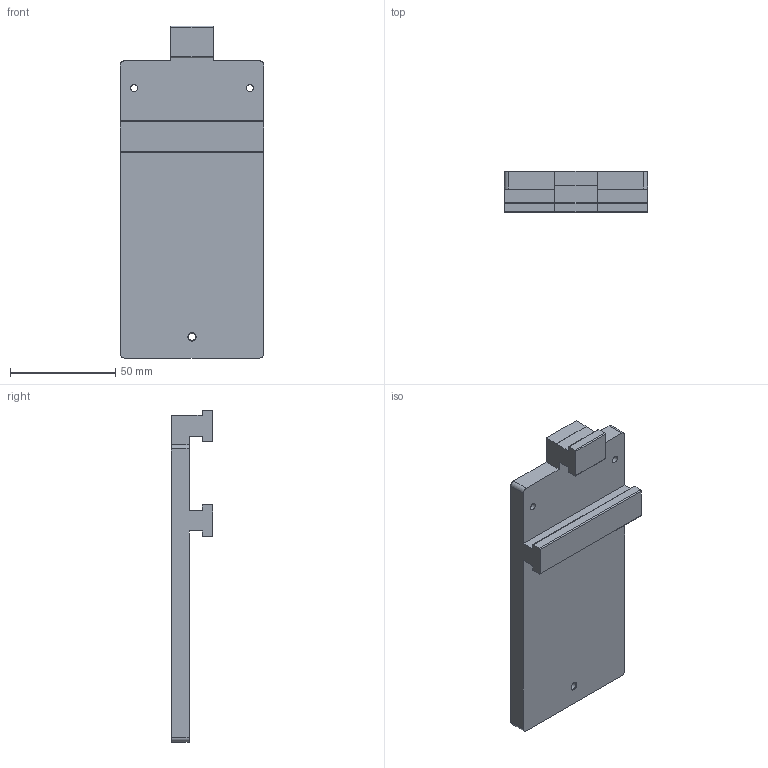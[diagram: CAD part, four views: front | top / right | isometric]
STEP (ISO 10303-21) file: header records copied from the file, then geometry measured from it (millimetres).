
FILE_DESCRIPTION(/* description */ (''),/* implementation_level */ '2;1');
FILE_NAME(/* name */ '2020TOMO-CRIMP.12.stp',/* time_stamp */ '2021-01-20T14:52:15+01:00',/* author */ (''),/* organization */ (''),/* preprocessor_version */ 'ST-DEVELOPER v16.7',/* originating_system */ 'SIEMENS PLM Software NX 1892',/* authorisation */ '');
FILE_SCHEMA (('AUTOMOTIVE_DESIGN { 1 0 10303 214 3 1 1 1 }'));
Length unit declared in the file: millimetre
Products named in the file (1): turc131041948itp
Bounding box: 68 x 19.7 x 157.5 mm (x, y, z)
Volume: 95552.8 mm3; surface area: 27049.3 mm2
Topology: 1 solids, 1 shells, 45 faces, 128 edges, 85 vertices
Faces by surface type: plane 26, cylinder 15, cone 4
Full cylindrical faces by diameter (mm): 3.3 x3
Entity records: 1450 total; most frequent: CARTESIAN_POINT 246, DIRECTION 244, ORIENTED_EDGE 236, EDGE_CURVE 118, LINE 84, VECTOR 84, VERTEX_POINT 82, AXIS2_PLACEMENT_3D 80
